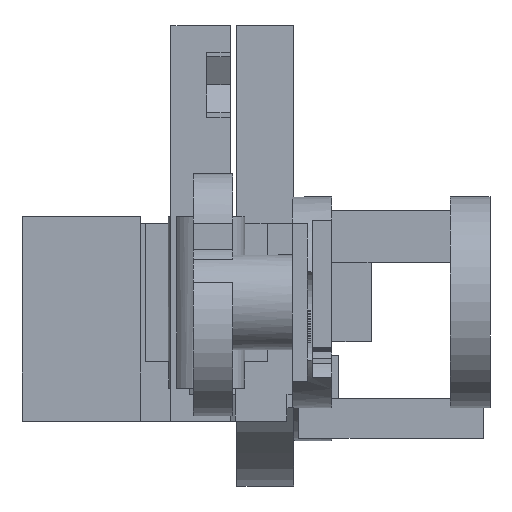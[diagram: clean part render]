
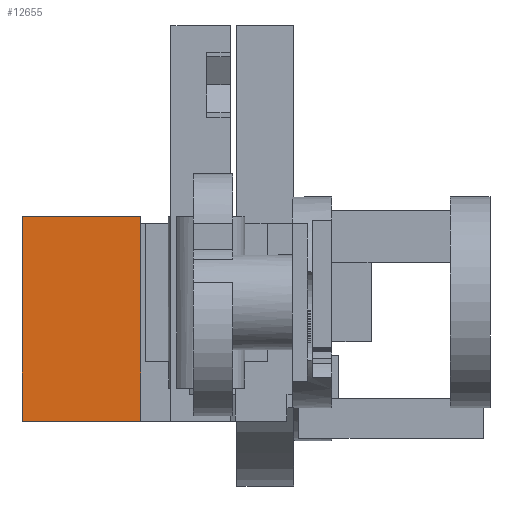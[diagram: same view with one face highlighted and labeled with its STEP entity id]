
A CAD part, left-side view. The second image highlights one B-rep face of the part: STEP entity #12655.
In plain terms, the highlighted planar face has unit normal (-1, 0, 0).
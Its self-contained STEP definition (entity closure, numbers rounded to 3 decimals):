
#9814 = PLANE('',#9815);
#9815 = AXIS2_PLACEMENT_3D('',#9816,#9817,#9818);
#9816 = CARTESIAN_POINT('',(12.,7.9,-9.));
#9817 = DIRECTION('',(0.,0.,1.));
#9818 = DIRECTION('',(1.,0.,-0.));
#10045 = VERTEX_POINT('',#10046);
#10046 = CARTESIAN_POINT('',(11.5,28.,-9.));
#10060 = PLANE('',#10061);
#10061 = AXIS2_PLACEMENT_3D('',#10062,#10063,#10064);
#10062 = CARTESIAN_POINT('',(11.5,28.,-9.));
#10063 = DIRECTION('',(-0.,1.,0.));
#10064 = DIRECTION('',(0.,0.,1.));
#10072 = EDGE_CURVE('',#10073,#10045,#10075,.T.);
#10073 = VERTEX_POINT('',#10074);
#10074 = CARTESIAN_POINT('',(11.5,19.,-9.));
#10075 = SURFACE_CURVE('',#10076,(#10080,#10087),.PCURVE_S1.);
#10076 = LINE('',#10077,#10078);
#10077 = CARTESIAN_POINT('',(11.5,19.,-9.));
#10078 = VECTOR('',#10079,1.);
#10079 = DIRECTION('',(-0.,1.,0.));
#10080 = PCURVE('',#9814,#10081);
#10081 = DEFINITIONAL_REPRESENTATION('',(#10082),#10086);
#10082 = LINE('',#10083,#10084);
#10083 = CARTESIAN_POINT('',(-0.5,11.1));
#10084 = VECTOR('',#10085,1.);
#10085 = DIRECTION('',(0.,1.));
#10086 = ( GEOMETRIC_REPRESENTATION_CONTEXT(2) 
PARAMETRIC_REPRESENTATION_CONTEXT() REPRESENTATION_CONTEXT('2D SPACE',''
  ) );
#10087 = PCURVE('',#10088,#10093);
#10088 = PLANE('',#10089);
#10089 = AXIS2_PLACEMENT_3D('',#10090,#10091,#10092);
#10090 = CARTESIAN_POINT('',(11.5,19.,-9.));
#10091 = DIRECTION('',(1.,0.,-0.));
#10092 = DIRECTION('',(0.,0.,1.));
#10093 = DEFINITIONAL_REPRESENTATION('',(#10094),#10098);
#10094 = LINE('',#10095,#10096);
#10095 = CARTESIAN_POINT('',(0.,0.));
#10096 = VECTOR('',#10097,1.);
#10097 = DIRECTION('',(0.,-1.));
#10098 = ( GEOMETRIC_REPRESENTATION_CONTEXT(2) 
PARAMETRIC_REPRESENTATION_CONTEXT() REPRESENTATION_CONTEXT('2D SPACE',''
  ) );
#10116 = PLANE('',#10117);
#10117 = AXIS2_PLACEMENT_3D('',#10118,#10119,#10120);
#10118 = CARTESIAN_POINT('',(11.5,19.,-9.));
#10119 = DIRECTION('',(-0.,1.,0.));
#10120 = DIRECTION('',(0.,0.,1.));
#10713 = PLANE('',#10714);
#10714 = AXIS2_PLACEMENT_3D('',#10715,#10716,#10717);
#10715 = CARTESIAN_POINT('',(11.5,19.,6.5));
#10716 = DIRECTION('',(0.,0.,1.));
#10717 = DIRECTION('',(1.,0.,-0.));
#10730 = EDGE_CURVE('',#10731,#10733,#10735,.T.);
#10731 = VERTEX_POINT('',#10732);
#10732 = CARTESIAN_POINT('',(11.5,19.,6.5));
#10733 = VERTEX_POINT('',#10734);
#10734 = CARTESIAN_POINT('',(11.5,28.,6.5));
#10735 = SURFACE_CURVE('',#10736,(#10740,#10747),.PCURVE_S1.);
#10736 = LINE('',#10737,#10738);
#10737 = CARTESIAN_POINT('',(11.5,19.,6.5));
#10738 = VECTOR('',#10739,1.);
#10739 = DIRECTION('',(-0.,1.,0.));
#10740 = PCURVE('',#10713,#10741);
#10741 = DEFINITIONAL_REPRESENTATION('',(#10742),#10746);
#10742 = LINE('',#10743,#10744);
#10743 = CARTESIAN_POINT('',(0.,0.));
#10744 = VECTOR('',#10745,1.);
#10745 = DIRECTION('',(0.,1.));
#10746 = ( GEOMETRIC_REPRESENTATION_CONTEXT(2) 
PARAMETRIC_REPRESENTATION_CONTEXT() REPRESENTATION_CONTEXT('2D SPACE',''
  ) );
#10747 = PCURVE('',#10088,#10748);
#10748 = DEFINITIONAL_REPRESENTATION('',(#10749),#10753);
#10749 = LINE('',#10750,#10751);
#10750 = CARTESIAN_POINT('',(15.5,0.));
#10751 = VECTOR('',#10752,1.);
#10752 = DIRECTION('',(0.,-1.));
#10753 = ( GEOMETRIC_REPRESENTATION_CONTEXT(2) 
PARAMETRIC_REPRESENTATION_CONTEXT() REPRESENTATION_CONTEXT('2D SPACE',''
  ) );
#12153 = EDGE_CURVE('',#10073,#10731,#12154,.T.);
#12154 = SURFACE_CURVE('',#12155,(#12159,#12166),.PCURVE_S1.);
#12155 = LINE('',#12156,#12157);
#12156 = CARTESIAN_POINT('',(11.5,19.,-9.));
#12157 = VECTOR('',#12158,1.);
#12158 = DIRECTION('',(0.,0.,1.));
#12159 = PCURVE('',#10116,#12160);
#12160 = DEFINITIONAL_REPRESENTATION('',(#12161),#12165);
#12161 = LINE('',#12162,#12163);
#12162 = CARTESIAN_POINT('',(0.,0.));
#12163 = VECTOR('',#12164,1.);
#12164 = DIRECTION('',(1.,0.));
#12165 = ( GEOMETRIC_REPRESENTATION_CONTEXT(2) 
PARAMETRIC_REPRESENTATION_CONTEXT() REPRESENTATION_CONTEXT('2D SPACE',''
  ) );
#12166 = PCURVE('',#10088,#12167);
#12167 = DEFINITIONAL_REPRESENTATION('',(#12168),#12172);
#12168 = LINE('',#12169,#12170);
#12169 = CARTESIAN_POINT('',(0.,0.));
#12170 = VECTOR('',#12171,1.);
#12171 = DIRECTION('',(1.,0.));
#12172 = ( GEOMETRIC_REPRESENTATION_CONTEXT(2) 
PARAMETRIC_REPRESENTATION_CONTEXT() REPRESENTATION_CONTEXT('2D SPACE',''
  ) );
#12655 = ADVANCED_FACE('',(#12656),#10088,.F.);
#12656 = FACE_BOUND('',#12657,.F.);
#12657 = EDGE_LOOP('',(#12658,#12659,#12660,#12681));
#12658 = ORIENTED_EDGE('',*,*,#12153,.F.);
#12659 = ORIENTED_EDGE('',*,*,#10072,.T.);
#12660 = ORIENTED_EDGE('',*,*,#12661,.T.);
#12661 = EDGE_CURVE('',#10045,#10733,#12662,.T.);
#12662 = SURFACE_CURVE('',#12663,(#12667,#12674),.PCURVE_S1.);
#12663 = LINE('',#12664,#12665);
#12664 = CARTESIAN_POINT('',(11.5,28.,-9.));
#12665 = VECTOR('',#12666,1.);
#12666 = DIRECTION('',(0.,0.,1.));
#12667 = PCURVE('',#10088,#12668);
#12668 = DEFINITIONAL_REPRESENTATION('',(#12669),#12673);
#12669 = LINE('',#12670,#12671);
#12670 = CARTESIAN_POINT('',(0.,-9.));
#12671 = VECTOR('',#12672,1.);
#12672 = DIRECTION('',(1.,0.));
#12673 = ( GEOMETRIC_REPRESENTATION_CONTEXT(2) 
PARAMETRIC_REPRESENTATION_CONTEXT() REPRESENTATION_CONTEXT('2D SPACE',''
  ) );
#12674 = PCURVE('',#10060,#12675);
#12675 = DEFINITIONAL_REPRESENTATION('',(#12676),#12680);
#12676 = LINE('',#12677,#12678);
#12677 = CARTESIAN_POINT('',(0.,0.));
#12678 = VECTOR('',#12679,1.);
#12679 = DIRECTION('',(1.,0.));
#12680 = ( GEOMETRIC_REPRESENTATION_CONTEXT(2) 
PARAMETRIC_REPRESENTATION_CONTEXT() REPRESENTATION_CONTEXT('2D SPACE',''
  ) );
#12681 = ORIENTED_EDGE('',*,*,#10730,.F.);
